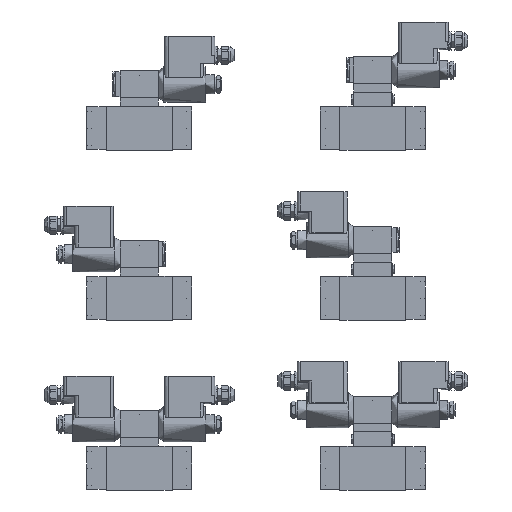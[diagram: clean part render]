
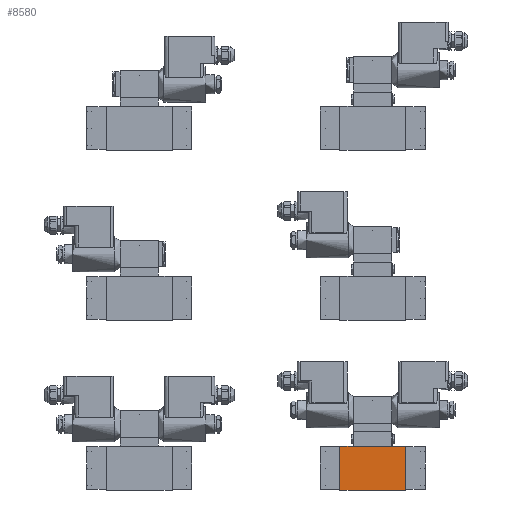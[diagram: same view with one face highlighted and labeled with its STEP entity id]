
A CAD part, front view. The second image highlights one B-rep face of the part: STEP entity #8580.
In plain terms, the highlighted planar face has unit normal (0, -1, 0).
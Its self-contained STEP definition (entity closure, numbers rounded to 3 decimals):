
#8580=ADVANCED_FACE('', (#8590), #8600, .T.);
#126640=AXIS2_PLACEMENT_3D('Ax2Pl3d', #126650, #126660, #126670);
#459990=CARTESIAN_POINT('', (93.,0.,0.));
#460000=CARTESIAN_POINT('', (0.,0.,0.));
#460010=CARTESIAN_POINT('', (93.,0.,0.));
#460250=CARTESIAN_POINT('', (0.,0.,62.));
#460260=CARTESIAN_POINT('', (93.,0.,62.));
#460270=CARTESIAN_POINT('', (93.,0.,62.));
#460500=CARTESIAN_POINT('', (93.,0.,62.));
#460630=CARTESIAN_POINT('', (0.,0.,62.));
#126650=CARTESIAN_POINT('HicPkt', (0.,0.,0.));
#785420=DIRECTION('', (1.,0.,0.));
#785470=DIRECTION('', (1.,0.,0.));
#785510=DIRECTION('', (0.,0.,1.));
#785520=DIRECTION('', (0.,0.,1.));
#126660=DIRECTION('Axis', (0.,-1.,
0.));
#126670=DIRECTION('RefDirection', (0.,
0.,-1.));
#821540=EDGE_CURVE('', #821550, #821560, #821570, .T.);
#822020=EDGE_CURVE('', #822000, #822030, #822040, .T.);
#822480=EDGE_CURVE('', #821560, #822030, #822490, .T.);
#822740=EDGE_CURVE('', #821550, #822000, #822750, .T.);
#966020=EDGE_LOOP('Edge_loop', (#966030,#966040,#966050,#966060));
#8590=FACE_OUTER_BOUND('Face_outer_bound', #966020, .T.);
#821570=LINE('Line', #459990, #1211180);
#822040=LINE('Line', #460260, #1211230);
#822490=LINE('Line', #460500, #1211270);
#822750=LINE('Line', #460630, #1211280);
#966030=ORIENTED_EDGE('', *, *, #821540, .T.);
#966040=ORIENTED_EDGE('', *, *, #822480, .T.);
#966050=ORIENTED_EDGE('', *, *, #822020, .F.);
#966060=ORIENTED_EDGE('', *, *, #822740, .F.);
#8600=PLANE('Plane', #126640);
#1211180=VECTOR('', #785420, 93.);
#1211230=VECTOR('', #785470, 93.);
#1211270=VECTOR('', #785510, 62.);
#1211280=VECTOR('', #785520, 62.);
#821550=VERTEX_POINT('', #460000);
#821560=VERTEX_POINT('', #460010);
#822000=VERTEX_POINT('', #460250);
#822030=VERTEX_POINT('', #460270);
